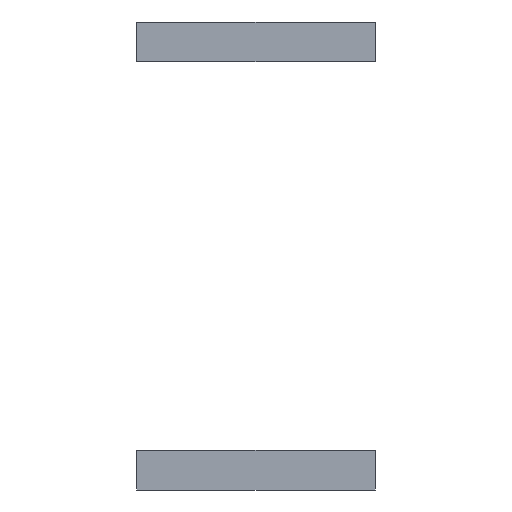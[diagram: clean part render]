
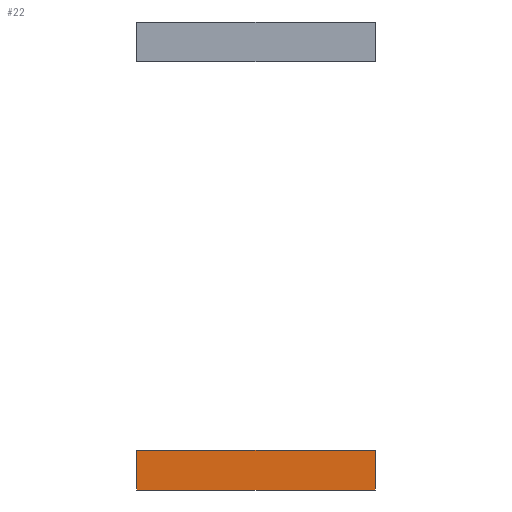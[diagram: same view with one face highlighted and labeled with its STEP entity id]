
A CAD part, front view. The second image highlights one B-rep face of the part: STEP entity #22.
In plain terms, the highlighted planar face has unit normal (0, -1, 0).
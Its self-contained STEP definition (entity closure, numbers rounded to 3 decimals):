
#22=ADVANCED_FACE('',(#34),#170,.T.);
#34=FACE_OUTER_BOUND('',#46,.T.);
#46=EDGE_LOOP('',(#70,#71,#72,#73));
#70=ORIENTED_EDGE('',*,*,#112,.F.);
#71=ORIENTED_EDGE('',*,*,#109,.F.);
#72=ORIENTED_EDGE('',*,*,#106,.F.);
#73=ORIENTED_EDGE('',*,*,#102,.F.);
#102=EDGE_CURVE('',#150,#151,#126,.T.);
#106=EDGE_CURVE('',#151,#154,#130,.T.);
#109=EDGE_CURVE('',#154,#156,#133,.T.);
#112=EDGE_CURVE('',#156,#150,#136,.T.);
#126=B_SPLINE_CURVE_WITH_KNOTS('',1,(#242,#243),.UNSPECIFIED.,.F.,.F.,(2,
2),(0.,1.),.UNSPECIFIED.);
#130=B_SPLINE_CURVE_WITH_KNOTS('',1,(#250,#251),.UNSPECIFIED.,.F.,.F.,(2,
2),(1.,7.),.UNSPECIFIED.);
#133=B_SPLINE_CURVE_WITH_KNOTS('',1,(#256,#257),.UNSPECIFIED.,.F.,.F.,(2,
2),(7.,8.),.UNSPECIFIED.);
#136=B_SPLINE_CURVE_WITH_KNOTS('',1,(#262,#263),.UNSPECIFIED.,.F.,.F.,(2,
2),(8.,14.),.UNSPECIFIED.);
#150=VERTEX_POINT('',#234);
#151=VERTEX_POINT('',#235);
#154=VERTEX_POINT('',#238);
#156=VERTEX_POINT('',#240);
#170=PLANE('',#202);
#202=AXIS2_PLACEMENT_3D('',#232,#217,$);
#217=DIRECTION('',(0.,-1.,0.));
#232=CARTESIAN_POINT('',(144.483,-128.359,379.186));
#234=CARTESIAN_POINT('',(150.483,-128.359,379.186));
#235=CARTESIAN_POINT('',(150.483,-128.359,378.186));
#238=CARTESIAN_POINT('',(144.483,-128.359,378.186));
#240=CARTESIAN_POINT('',(144.483,-128.359,379.186));
#242=CARTESIAN_POINT('',(150.483,-128.359,379.186));
#243=CARTESIAN_POINT('',(150.483,-128.359,378.186));
#250=CARTESIAN_POINT('',(150.483,-128.359,378.186));
#251=CARTESIAN_POINT('',(144.483,-128.359,378.186));
#256=CARTESIAN_POINT('',(144.483,-128.359,378.186));
#257=CARTESIAN_POINT('',(144.483,-128.359,379.186));
#262=CARTESIAN_POINT('',(144.483,-128.359,379.186));
#263=CARTESIAN_POINT('',(150.483,-128.359,379.186));
